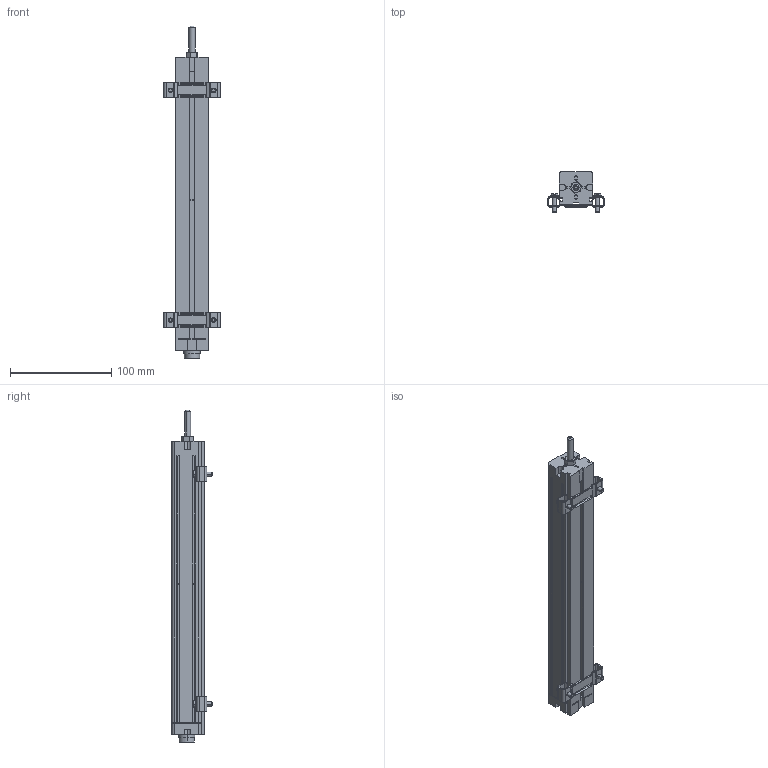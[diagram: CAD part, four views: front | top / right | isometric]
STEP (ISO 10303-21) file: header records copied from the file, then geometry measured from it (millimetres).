
FILE_DESCRIPTION(('STEP AP214'),'1');
FILE_NAME('burster_8719-5225_4sbvn3lm7h4hdg4gv2v20ibjx.stp','2017-04-18T17:29:04',('TraceParts'),('TraceParts S.A.'),'Spatial InterOp 3D',' ',' ');
FILE_SCHEMA(('automotive_design'));
Length unit declared in the file: millimetre
Products named in the file (1): burster_8719-5225_4sbvn3lm7h4hdg4gv2v20ibjx
Bounding box: 56 x 39.7 x 328.3 mm (x, y, z)
Volume: 291639.7 mm3; surface area: 57996.3 mm2
Topology: 1 solids, 3 shells, 672 faces, 1677 edges, 1004 vertices
Faces by surface type: plane 385, cylinder 195, cone 58, torus 12, bspline 12, sphere 10
Entity records: 25239 total; most frequent: CARTESIAN_POINT 3764, DIRECTION 3429, ORIENTED_EDGE 3334, EDGE_CURVE 1667, AXIS2_PLACEMENT_3D 1173, LINE 1083, VECTOR 1083, VERTEX_POINT 1004
